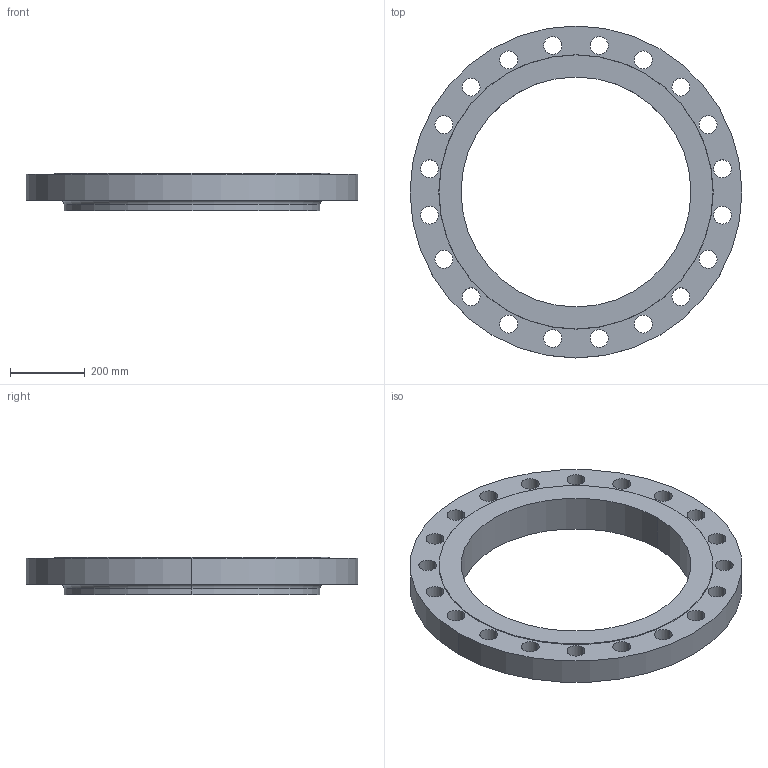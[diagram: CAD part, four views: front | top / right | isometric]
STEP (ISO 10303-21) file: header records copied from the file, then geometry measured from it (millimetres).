
FILE_DESCRIPTION (( 'STEP AP214' ), '1' );
FILE_NAME ('PN40 DN600 Type 12 - Type B Face.STEP', '2018-12-28T23:05:04', ( '' ), ( '' ), 'SwSTEP 2.0', 'SolidWorks 2019', '' );
FILE_SCHEMA (( 'AUTOMOTIVE_DESIGN' ));
Length unit declared in the file: millimetre
Products named in the file (1): PN40 DN600 Type 12 - Type B Face
Bounding box: 890 x 890 x 100 mm (x, y, z)
Volume: 22429251.3 mm3; surface area: 1228529.6 mm2
Topology: 1 solids, 1 shells, 54 faces, 148 edges, 98 vertices
Faces by surface type: cylinder 46, plane 4, torus 2, cone 2
Entity records: 1894 total; most frequent: DIRECTION 358, CARTESIAN_POINT 301, ORIENTED_EDGE 296, AXIS2_PLACEMENT_3D 155, EDGE_CURVE 148, CIRCLE 100, EDGE_LOOP 98, VERTEX_POINT 98
